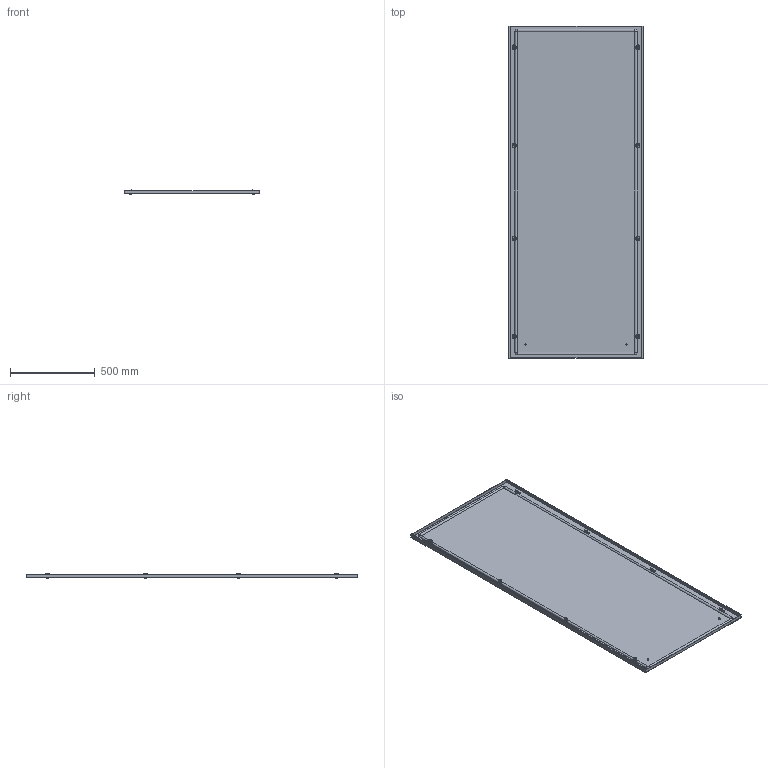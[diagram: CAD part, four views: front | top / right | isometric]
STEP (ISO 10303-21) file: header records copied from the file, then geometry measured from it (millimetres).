
FILE_DESCRIPTION(('Open CASCADE Model'),'2;1');
FILE_NAME('Open CASCADE Shape Model','2025-02-07T16:30:45',('Author'),( 'Open CASCADE'),'Open CASCADE STEP processor 7.8','Open CASCADE 7.8' ,'Unknown');
FILE_SCHEMA(('AUTOMOTIVE_DESIGN { 1 0 10303 214 1 1 1 1 }'));
Length unit declared in the file: millimetre
Products named in the file (10): Compound1; Compound2; Compound3; Solid1; Solid2; Solid3; Solid4; Solid5; Solid6; Solid7
Assembly tree (40 placements, depth 4):
  Compound1
    Compound2
      Compound3
        Solid1
        Solid2  x4
      Solid3
    Solid4  x8
    Solid5  x8
    Solid6  x8
    Solid7  x8
Bounding box: 794 x 1955 x 23.8 mm (x, y, z)
Volume: 3022441.1 mm3; surface area: 3629886.9 mm2
Topology: 38 solids, 38 shells, 1655 faces, 4040 edges, 2460 vertices
Faces by surface type: plane 1043, cone 308, cylinder 268, torus 26, bspline 8, revolution 2
Full cylindrical faces by diameter (mm): 5 x16, 6 x132, 7.5 x4, 8 x16, 10 x8, 11.57 x8
Entity records: 7801 total; most frequent: CARTESIAN_POINT 1491, DIRECTION 1263, ORIENTED_EDGE 1244, EDGE_CURVE 622, AXIS2_PLACEMENT_3D 426, LINE 409, VECTOR 409, VERTEX_POINT 387
